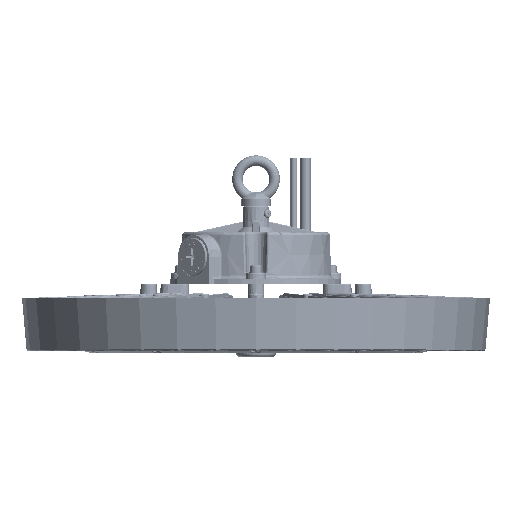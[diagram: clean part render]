
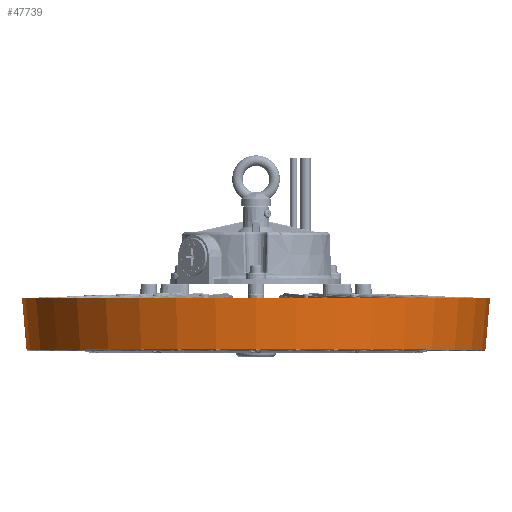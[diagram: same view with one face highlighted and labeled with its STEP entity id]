
A CAD part, top view. The second image highlights one B-rep face of the part: STEP entity #47739.
In plain terms, the highlighted conical face has half-angle 5 degrees and reference radius 174.79 mm.
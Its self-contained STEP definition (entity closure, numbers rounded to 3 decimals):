
#2166=DIRECTION('',(0.087,-0.996,0.));
#2167=VECTOR('',#2166,39.236);
#2168=CARTESIAN_POINT('',(-176.5,40.,0.));
#2169=LINE('',#2168,#2167);
#2170=DIRECTION('',(-0.087,-0.996,0.));
#2171=VECTOR('',#2170,39.236);
#2172=CARTESIAN_POINT('',(176.5,40.,0.));
#2173=LINE('',#2172,#2171);
#2174=CARTESIAN_POINT('',(0.,0.913,0.));
#2175=DIRECTION('',(0.,1.,0.));
#2176=DIRECTION('',(-1.,0.,0.));
#2177=AXIS2_PLACEMENT_3D('',#2174,#2175,#2176);
#2189=CARTESIAN_POINT('',(0.,40.,0.));
#2190=DIRECTION('',(0.,-1.,0.));
#2191=DIRECTION('',(1.,0.,0.));
#2192=AXIS2_PLACEMENT_3D('',#2189,#2190,#2191);
#40998=CARTESIAN_POINT('',(176.5,40.,0.));
#40999=CARTESIAN_POINT('',(-176.5,40.,0.));
#41000=VERTEX_POINT('',#40998);
#41001=VERTEX_POINT('',#40999);
#41236=CARTESIAN_POINT('',(-173.08,0.913,
0.));
#41237=CARTESIAN_POINT('',(173.08,0.913,
0.));
#41238=VERTEX_POINT('',#41236);
#41239=VERTEX_POINT('',#41237);
#47726=CARTESIAN_POINT('',(0.,20.456,0.));
#47727=DIRECTION('',(0.,1.,0.));
#47728=DIRECTION('',(1.,0.,0.));
#47729=AXIS2_PLACEMENT_3D('',#47726,#47727,#47728);
#47730=CONICAL_SURFACE('',#47729,174.79,5.);
#47732=ORIENTED_EDGE('',*,*,#47731,.F.);
#47733=ORIENTED_EDGE('',*,*,#47721,.F.);
#47735=ORIENTED_EDGE('',*,*,#47734,.F.);
#47736=ORIENTED_EDGE('',*,*,#47717,.T.);
#47737=EDGE_LOOP('',(#47732,#47733,#47735,#47736));
#47738=FACE_OUTER_BOUND('',#47737,.F.);
#47739=ADVANCED_FACE('',(#47738),#47730,.T.);
#2178=CIRCLE('',#2177,173.08);
#2193=CIRCLE('',#2192,176.5);
#47717=EDGE_CURVE('',#41000,#41239,#2173,.T.);
#47721=EDGE_CURVE('',#41001,#41238,#2169,.T.);
#47731=EDGE_CURVE('',#41238,#41239,#2178,.T.);
#47734=EDGE_CURVE('',#41000,#41001,#2193,.T.);
